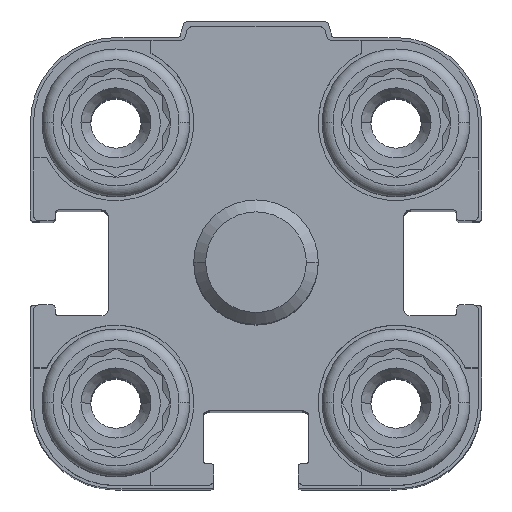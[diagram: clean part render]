
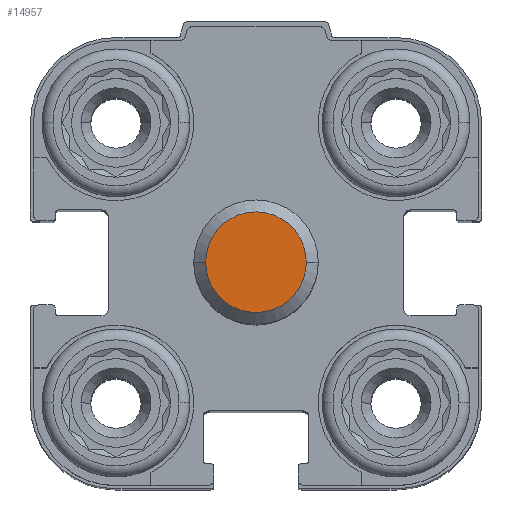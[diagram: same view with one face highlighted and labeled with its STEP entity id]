
A CAD part, top view. The second image highlights one B-rep face of the part: STEP entity #14957.
In plain terms, the highlighted planar face has unit normal (0, 0, 1).
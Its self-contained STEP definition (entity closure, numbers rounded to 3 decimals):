
#1273 = DIRECTION ( 'NONE',  ( -1., 0., 0. ) ) ;
#3142 = DIRECTION ( 'NONE',  ( 0., 1., 0. ) ) ;
#4519 = VERTEX_POINT ( 'NONE', #4905 ) ;
#4605 = AXIS2_PLACEMENT_3D ( 'NONE', #15238, #15423, #3142 ) ;
#4711 = ORIENTED_EDGE ( 'NONE', *, *, #5734, .F. ) ;
#4905 = CARTESIAN_POINT ( 'NONE',  ( -3.233, 0., 24.5 ) ) ;
#5568 = CARTESIAN_POINT ( 'NONE',  ( 3.233, 0., 24.5 ) ) ;
#5734 = EDGE_CURVE ( 'NONE', #4519, #17667, #8704, .T. ) ;
#6005 = DIRECTION ( 'NONE',  ( 0., 0., -1. ) ) ;
#6174 = CARTESIAN_POINT ( 'NONE',  ( 0., 0., 24.5 ) ) ;
#8435 = DIRECTION ( 'NONE',  ( 0., 0., -1. ) ) ;
#8704 = CIRCLE ( 'NONE', #16441, 3.233 ) ;
#9086 = ORIENTED_EDGE ( 'NONE', *, *, #10802, .F. ) ;
#9772 = FACE_OUTER_BOUND ( 'NONE', #17586, .T. ) ;
#10802 = EDGE_CURVE ( 'NONE', #17667, #4519, #13165, .T. ) ;
#10876 = AXIS2_PLACEMENT_3D ( 'NONE', #15242, #8435, #1273 ) ;
#12545 = PLANE ( 'NONE',  #4605 ) ;
#13165 = CIRCLE ( 'NONE', #10876, 3.233 ) ;
#14957 = ADVANCED_FACE ( 'NONE', ( #9772 ), #12545, .F. ) ;
#15238 = CARTESIAN_POINT ( 'NONE',  ( 0., 0., 24.5 ) ) ;
#15242 = CARTESIAN_POINT ( 'NONE',  ( 0., 0., 24.5 ) ) ;
#15423 = DIRECTION ( 'NONE',  ( 0., 0., -1. ) ) ;
#16441 = AXIS2_PLACEMENT_3D ( 'NONE', #6174, #6005, #16767 ) ;
#16767 = DIRECTION ( 'NONE',  ( -1., 0., 0. ) ) ;
#17586 = EDGE_LOOP ( 'NONE', ( #4711, #9086 ) ) ;
#17667 = VERTEX_POINT ( 'NONE', #5568 ) ;
